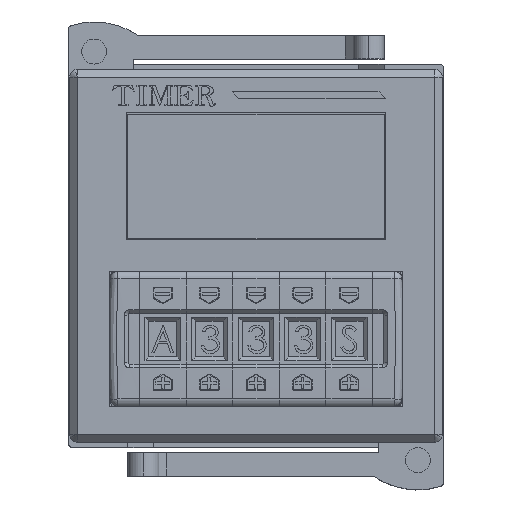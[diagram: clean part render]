
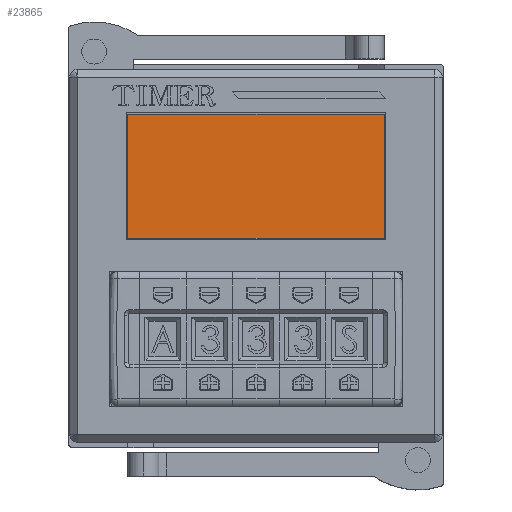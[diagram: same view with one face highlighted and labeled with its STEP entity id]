
A CAD part, top view. The second image highlights one B-rep face of the part: STEP entity #23865.
In plain terms, the highlighted planar face has unit normal (0, 0, 1).
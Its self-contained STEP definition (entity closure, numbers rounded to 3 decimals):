
#5479 = LINE ( 'NONE', #23623, #35699 ) ;
#5484 = VERTEX_POINT ( 'NONE', #27342 ) ;
#6407 = LINE ( 'NONE', #8187, #68741 ) ;
#6693 = DIRECTION ( 'NONE',  ( 1., 0., 0. ) ) ;
#8187 = CARTESIAN_POINT ( 'NONE',  ( 24.028, 15.923, 110.994 ) ) ;
#11263 = VECTOR ( 'NONE', #6693, 1000. ) ;
#15226 = EDGE_CURVE ( 'NONE', #72791, #64892, #6407, .T. ) ;
#17798 = DIRECTION ( 'NONE',  ( 0., 0., 1. ) ) ;
#18802 = AXIS2_PLACEMENT_3D ( 'NONE', #29450, #17798, #54493 ) ;
#19093 = DIRECTION ( 'NONE',  ( 0., 1., 0. ) ) ;
#20144 = CARTESIAN_POINT ( 'NONE',  ( -8.972, 15.923, 110.994 ) ) ;
#22856 = DIRECTION ( 'NONE',  ( 0., -1., 0. ) ) ;
#23623 = CARTESIAN_POINT ( 'NONE',  ( -8.972, -0.077, 110.994 ) ) ;
#23865 = ADVANCED_FACE ( 'NONE', ( #44445 ), #66113, .T. ) ;
#27342 = CARTESIAN_POINT ( 'NONE',  ( 24.028, -0.077, 110.994 ) ) ;
#27349 = LINE ( 'NONE', #36755, #11263 ) ;
#29450 = CARTESIAN_POINT ( 'NONE',  ( 7.528, -2.427, 110.994 ) ) ;
#32758 = VERTEX_POINT ( 'NONE', #40781 ) ;
#34724 = ORIENTED_EDGE ( 'NONE', *, *, #68947, .T. ) ;
#35699 = VECTOR ( 'NONE', #22856, 1000. ) ;
#36609 = EDGE_CURVE ( 'NONE', #5484, #72791, #57042, .T. ) ;
#36755 = CARTESIAN_POINT ( 'NONE',  ( 24.028, -0.077, 110.994 ) ) ;
#37079 = ORIENTED_EDGE ( 'NONE', *, *, #36609, .T. ) ;
#37314 = CARTESIAN_POINT ( 'NONE',  ( 24.028, -0.077, 110.994 ) ) ;
#40781 = CARTESIAN_POINT ( 'NONE',  ( -8.972, -0.077, 110.994 ) ) ;
#41288 = EDGE_CURVE ( 'NONE', #32758, #5484, #27349, .T. ) ;
#44445 = FACE_OUTER_BOUND ( 'NONE', #55383, .T. ) ;
#47585 = ORIENTED_EDGE ( 'NONE', *, *, #41288, .T. ) ;
#50416 = DIRECTION ( 'NONE',  ( -1., 0., 0. ) ) ;
#53570 = ORIENTED_EDGE ( 'NONE', *, *, #15226, .T. ) ;
#54493 = DIRECTION ( 'NONE',  ( -1., 0., 0. ) ) ;
#55383 = EDGE_LOOP ( 'NONE', ( #37079, #53570, #34724, #47585 ) ) ;
#57042 = LINE ( 'NONE', #37314, #58929 ) ;
#58929 = VECTOR ( 'NONE', #19093, 1000. ) ;
#63540 = CARTESIAN_POINT ( 'NONE',  ( 24.028, 15.923, 110.994 ) ) ;
#64892 = VERTEX_POINT ( 'NONE', #20144 ) ;
#66113 = PLANE ( 'NONE',  #18802 ) ;
#68741 = VECTOR ( 'NONE', #50416, 1000. ) ;
#68947 = EDGE_CURVE ( 'NONE', #64892, #32758, #5479, .T. ) ;
#72791 = VERTEX_POINT ( 'NONE', #63540 ) ;
